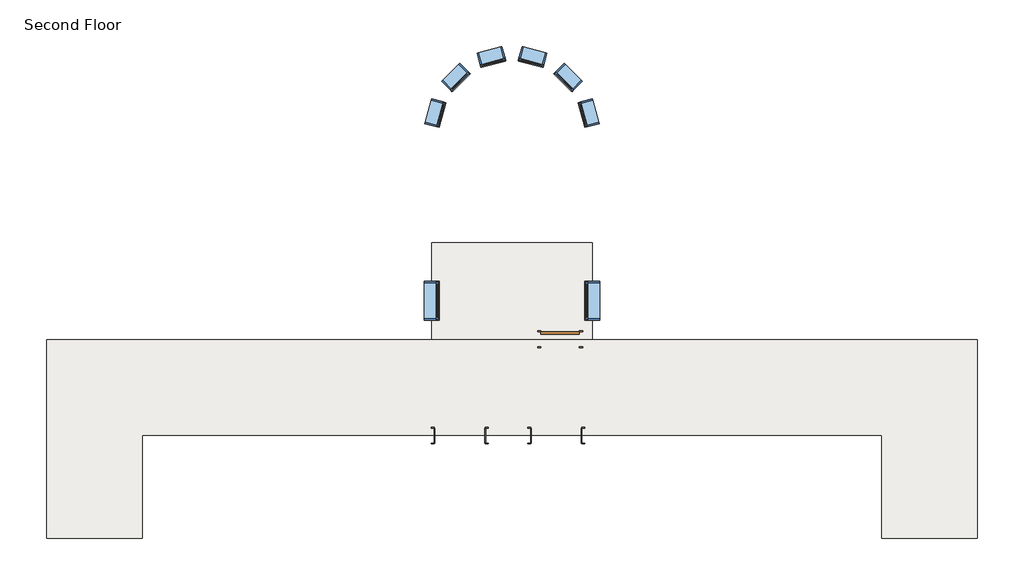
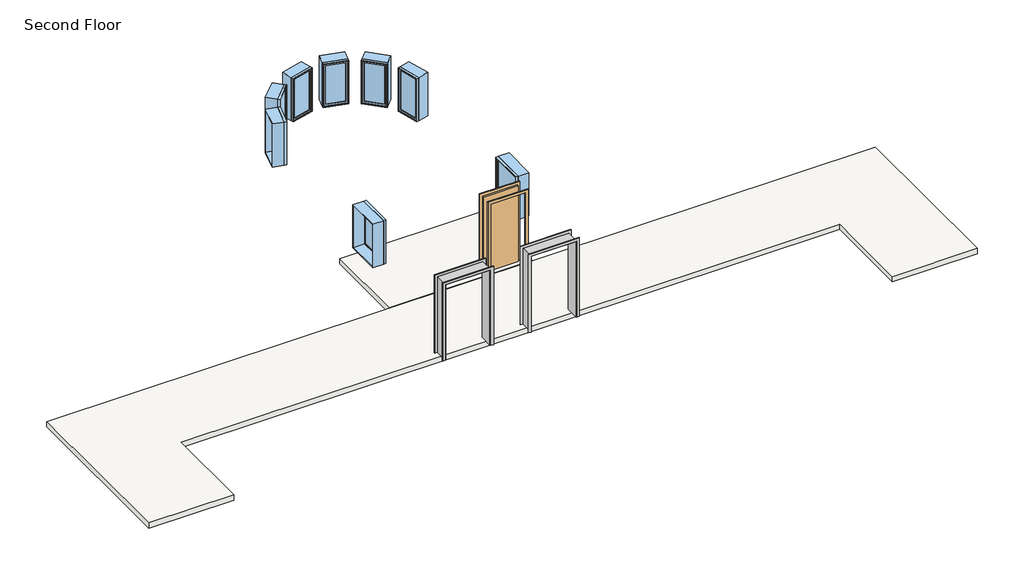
# One storey: 8 windows, 2 proxies, 2 slabs, 1 door.
"""IFC4 building model written with IfcOpenShell, lengths in millimetres."""

import ifcopenshell
import ifcopenshell.guid

model = None  # the IFC model being written
_history = None  # IfcOwnerHistory: only IFC2X3 demands one
_inside = {}  # id of a spatial element -> (the spatial element, [elements in it])
_under = {}  # id of a project, library or spatial element -> (it, [spatial elements below it])
_declared = {}  # id of a project -> (the project, [libraries it declares])
_typed = {}  # id of a type object -> (the type object, [elements of that type])
_made_of = {}  # id of a material, layer set ... -> (it, [elements and type objects made of it])


def new_model(schema):
    """Start an empty IFC model of exactly this schema.

    Asked for "IFC4X3", IfcOpenShell would pick the latest addendum, in which some entities
    have other attributes; the version numbers below select the first issue.
    IFC2X3 requires an IfcOwnerHistory on every rooted entity: one is made here for all.
    """
    global model, _history
    if schema == "IFC4X3":
        model = ifcopenshell.file(schema_version=(4, 3, 0, 0))
    else:
        model = ifcopenshell.file(schema=schema)
    _inside.clear()
    _under.clear()
    _declared.clear()
    _typed.clear()
    _made_of.clear()
    _history = None
    if model.schema == "IFC2X3":
        org = make("IfcOrganization", Name="unknown")
        user = make(
            "IfcPersonAndOrganization",
            ThePerson=make("IfcPerson", FamilyName="unknown"),
            TheOrganization=org,
        )
        app = make(
            "IfcApplication",
            ApplicationDeveloper=org,
            Version="unknown",
            ApplicationFullName="unknown",
            ApplicationIdentifier="unknown",
        )
        _history = make(
            "IfcOwnerHistory",
            OwningUser=user,
            OwningApplication=app,
            ChangeAction="ADDED",
            CreationDate=0,
        )
    return model


def make(cls, **values):
    """One entity of the class cls with the attributes given. An attribute that is None is left unset."""
    return model.create_entity(
        cls, **{name: value for name, value in values.items() if value is not None}
    )


def rooted(cls, **values):
    """An entity with a GlobalId (a new one), such as an element, a storey or a relation."""
    return make(cls, GlobalId=ifcopenshell.guid.new(), OwnerHistory=_history, **values)


def si_unit(unit_type, name, prefix=None):
    """IfcSIUnit, for example si_unit("LENGTHUNIT", "METRE", prefix="MILLI")."""
    return make("IfcSIUnit", UnitType=unit_type, Prefix=prefix, Name=name)


def assignment(units):
    """IfcUnitAssignment: the units of a project."""
    return None if units is None else make("IfcUnitAssignment", Units=units)


def point(xyz):
    """IfcCartesianPoint."""
    return None if xyz is None else make("IfcCartesianPoint", Coordinates=xyz)


def direction(xyz):
    """IfcDirection."""
    return None if xyz is None else make("IfcDirection", DirectionRatios=xyz)


def frame(location, z_axis=None, x_axis=None):
    """IfcAxis2Placement3D, a coordinate frame: its origin and axes. An axis left out is left unset."""
    return make(
        "IfcAxis2Placement3D",
        Location=point(location),
        Axis=direction(z_axis),
        RefDirection=direction(x_axis),
    )


def origin():
    """The frame at (0, 0, 0) with its axes left unset."""
    return frame((0.0, 0.0, 0.0))


def origin_with_axes():
    """The frame at (0, 0, 0) with the z axis (0, 0, 1) and the x axis (1, 0, 0) written out."""
    return frame((0.0, 0.0, 0.0), z_axis=(0.0, 0.0, 1.0), x_axis=(1.0, 0.0, 0.0))


def place(relative_to, where):
    """IfcLocalPlacement: puts the frame where relative to a parent placement (None: the world)."""
    return make(
        "IfcLocalPlacement", PlacementRelTo=relative_to, RelativePlacement=where
    )


def context(
    kind, dimensions, precision=None, world=None, true_north=None, identifier=None
):
    """IfcGeometricRepresentationContext, for example the 3D "Model" context."""
    return make(
        "IfcGeometricRepresentationContext",
        ContextIdentifier=identifier,
        ContextType=kind,
        CoordinateSpaceDimension=dimensions,
        Precision=precision,
        WorldCoordinateSystem=world,
        TrueNorth=true_north,
    )


def project(units=None, contexts=None):
    """IfcProject with its units and contexts."""
    return rooted(
        "IfcProject",
        Name="project",
        RepresentationContexts=contexts,
        UnitsInContext=assignment(units),
    )


def spatial(cls, under=None, at=None, **own):
    """A site, building, storey or space (cls), placed at a placement, below another one or the project."""
    s = rooted(cls, ObjectPlacement=at, **own)
    if under is not None:
        _under.setdefault(under.id(), (under, []))[1].append(s)
    return s


def polyline(points):
    """IfcPolyline through the points."""
    return make("IfcPolyline", Points=[point(p) for p in points])


def outline(outer, holes=None, kind="AREA"):
    """IfcArbitraryClosedProfileDef: a profile drawn as a closed curve; with holes, ...WithVoids."""
    if holes is None:
        return make("IfcArbitraryClosedProfileDef", ProfileType=kind, OuterCurve=outer)
    return make(
        "IfcArbitraryProfileDefWithVoids",
        ProfileType=kind,
        OuterCurve=outer,
        InnerCurves=holes,
    )


def extrude(swept, where, along, depth):
    """IfcExtrudedAreaSolid: the profile swept, set in the frame where, extruded along a direction by depth."""
    return make(
        "IfcExtrudedAreaSolid",
        SweptArea=swept,
        Position=where,
        ExtrudedDirection=direction(along),
        Depth=depth,
    )


def faces_of(points, faces, orient=None, outer=None):
    """IfcFace entities. A face is a list of loops; a loop is a list of indices into points, from 0.

    orient and outer hold one flag for each loop. By default every Orientation is true, the
    first loop of a face is its IfcFaceOuterBound and the others are IfcFaceBound.
    """
    made = []
    for i, loops in enumerate(faces):
        bounds = []
        for j, loop in enumerate(loops):
            is_outer = j == 0 if outer is None else outer[i][j]
            bounds.append(
                make(
                    "IfcFaceOuterBound" if is_outer else "IfcFaceBound",
                    Bound=make("IfcPolyLoop", Polygon=[points[k] for k in loop]),
                    Orientation=True if orient is None else orient[i][j],
                )
            )
        made.append(make("IfcFace", Bounds=bounds))
    return made


def faceted_brep(points, faces, orient=None, outer=None, voids=None):
    """IfcFacetedBrep: a solid bounded by flat faces; with voids (closed shells), ...WithVoids."""
    shared = [point(p) for p in points]
    hull = make("IfcClosedShell", CfsFaces=faces_of(shared, faces, orient, outer))
    if voids is None:
        return make("IfcFacetedBrep", Outer=hull)
    return make(
        "IfcFacetedBrepWithVoids",
        Outer=hull,
        Voids=[
            make(cls, CfsFaces=faces_of(shared, fs, o, b)) for cls, fs, o, b in voids
        ],
    )


def shape(context_of_items, identifier, shape_type, items):
    """IfcShapeRepresentation: the items that make up one representation, for example the "Body"."""
    return make(
        "IfcShapeRepresentation",
        ContextOfItems=context_of_items,
        RepresentationIdentifier=identifier,
        RepresentationType=shape_type,
        Items=items,
    )


def source(mapping_origin, context_of_items, identifier, shape_type, items):
    """IfcRepresentationMap: a shape defined once, which mapped items show again and again."""
    return make(
        "IfcRepresentationMap",
        MappingOrigin=mapping_origin,
        MappedRepresentation=shape(context_of_items, identifier, shape_type, items),
    )


def transform(
    local_origin,
    x_axis=None,
    y_axis=None,
    z_axis=None,
    scale=None,
    scale2=None,
    scale3=None,
    uniform=True,
):
    """IfcCartesianTransformationOperator3D, or its non-uniform kind. x_axis, y_axis, z_axis: its Axis1, 2, 3."""
    if uniform:
        return make(
            "IfcCartesianTransformationOperator3D",
            Axis1=direction(x_axis),
            Axis2=direction(y_axis),
            LocalOrigin=point(local_origin),
            Scale=scale,
            Axis3=direction(z_axis),
        )
    return make(
        "IfcCartesianTransformationOperator3DnonUniform",
        Axis1=direction(x_axis),
        Axis2=direction(y_axis),
        LocalOrigin=point(local_origin),
        Scale=scale,
        Axis3=direction(z_axis),
        Scale2=scale2,
        Scale3=scale3,
    )


def mapped(mapping_source, mapping_target):
    """IfcMappedItem: shows the shape of a source again, moved by a transform."""
    return make(
        "IfcMappedItem", MappingSource=mapping_source, MappingTarget=mapping_target
    )


def made_of(thing, what):
    """Note that an element or type object is made of a material, layer set ...; save() writes the relation."""
    if what is not None:
        _made_of.setdefault(what.id(), (what, []))[1].append(thing)
    return thing


def element(
    cls,
    number,
    at=None,
    inside=None,
    cuts=None,
    type_object=None,
    material=None,
    context=None,
    identifier="Body",
    shape_type=None,
    held_by="IfcProductDefinitionShape",
    body=None,
    shapes=None,
    **own,
):
    """One element of the class cls, such as IfcWall. Its Tag is "e" and its number.

    at: its placement. inside: the storey or other place that contains it. cuts: it is an
    opening in that element (IfcRelVoidsElement). A single representation is given by context,
    identifier, shape_type and body (its items); several are given by shapes. held_by: the class
    of the entity that holds the representations. save() writes the other relations.
    """
    e = rooted(cls, Tag="e%d" % number, ObjectPlacement=at, **own)
    if body is not None:
        shapes = [shape(context, identifier, shape_type, body)]
    if shapes is not None:
        e.Representation = make(held_by, Representations=shapes)
    if inside is not None:
        _inside.setdefault(inside.id(), (inside, []))[1].append(e)
    if cuts is not None:
        rooted(
            "IfcRelVoidsElement", RelatingBuildingElement=cuts, RelatedOpeningElement=e
        )
    if type_object is not None:
        _typed.setdefault(type_object.id(), (type_object, []))[1].append(e)
    return made_of(e, material)


def aggregate(whole, parts):
    """IfcRelAggregates: a whole, such as a stair, and the parts it consists of."""
    return rooted("IfcRelAggregates", RelatingObject=whole, RelatedObjects=parts)


def save(model, path):
    """Write the relations noted so far, then the file.

    IfcRelAggregates (storeys below a building ...), IfcRelContainedInSpatialStructure (elements
    in a storey), IfcRelDefinesByType, IfcRelAssociatesMaterial and IfcRelDeclares: one each for
    every whole, place, type object, material and project.
    """
    for whole, parts in _under.values():
        aggregate(whole, parts)
    for where, things in _inside.values():
        rooted(
            "IfcRelContainedInSpatialStructure",
            RelatedElements=things,
            RelatingStructure=where,
        )
    for kind, things in _typed.values():
        rooted("IfcRelDefinesByType", RelatedObjects=things, RelatingType=kind)
    for what, things in _made_of.values():
        rooted("IfcRelAssociatesMaterial", RelatedObjects=things, RelatingMaterial=what)
    for by, libraries in _declared.values():
        rooted("IfcRelDeclares", RelatingContext=by, RelatedDefinitions=libraries)
    model.write(path)


def m_passage_opening_cased_1220_x_2134mm_f04423fa(model_context):
    return source(origin(), model_context, "Body", "SolidModel", [
        extrude(outline(polyline([(0.0, -611.8386567), (2127.65, -611.8386567), (2127.65, 595.4613433), (0.0, 595.4613433), (0.0, 670.4613433), (2202.65, 670.4613433), (2202.65, -686.8386567), (0.0, -686.8386567), (0.0, -611.8386567)])), frame((0.0, -195.0, 0.0), z_axis=(0.0, 1.0, 0.0), x_axis=(0.0, 0.0, 1.0)), (0.0, 0.0, 1.0), 20.0),
        extrude(outline(polyline([(0.0, 670.4613433), (2208.05, 670.4613433), (2208.05, -686.8386567), (0.0, -686.8386567), (0.0, -611.8386567), (2127.65, -611.8386567), (2127.65, 595.4613433), (0.0, 595.4613433), (0.0, 670.4613433)])), frame((0.0, 175.0, 0.0), z_axis=(0.0, 1.0, 0.0), x_axis=(0.0, 0.0, 1.0)), (0.0, 0.0, 1.0), 20.0),
        faceted_brep([(581.8113433, 175.0, 0.0), (600.8613433, 175.0, 0.0), (600.8613433, -175.0, 0.0), (581.8113433, -175.0, 0.0), (581.8113433, 175.0, 2114.0), (600.8613433, 175.0, 2133.05), (600.8613433, -175.0, 2133.05), (581.8113433, -175.0, 2114.0), (-598.1886567, 175.0, 2114.0), (-617.2386567, 175.0, 2133.05), (-617.2386567, -175.0, 2133.05), (-598.1886567, -175.0, 2114.0), (-598.1886567, 175.0, 0.0), (-598.1886567, -175.0, 0.0), (-617.2386567, -175.0, 0.0), (-617.2386567, 175.0, 0.0)], [[[0, 1, 2, 3]], [[1, 0, 4, 5]], [[2, 1, 5, 6]], [[3, 2, 6, 7]], [[0, 3, 7, 4]], [[5, 4, 8, 9]], [[6, 5, 9, 10]], [[7, 6, 10, 11]], [[4, 7, 11, 8]], [[12, 13, 14, 15]], [[9, 8, 12, 15]], [[10, 9, 15, 14]], [[11, 10, 14, 13]], [[8, 11, 13, 12]]]),
    ])


def m_single_flush_0915_x_2134mm_1eac8bb1(model_context):
    return source(origin(), model_context, "Body", "SweptSolid", [
        extrude(outline(polyline([(2210.0, -533.5), (0.0, -533.5), (0.0, -457.5), (2134.0, -457.5), (2134.0, 457.5), (0.0, 457.5), (0.0, 533.5), (2210.0, 533.5), (2210.0, -533.5)])), frame((0.0, 175.0, 0.0), z_axis=(0.0, 1.0, 0.0), x_axis=(0.0, 0.0, 1.0)), (0.0, 0.0, 1.0), 25.0),
        extrude(outline(polyline([(2210.0, 533.5), (2210.0, -533.5), (0.0, -533.5), (0.0, -457.5), (2134.0, -457.5), (2134.0, 457.5), (0.0, 457.5), (0.0, 533.5), (2210.0, 533.5)])), frame((0.0, -200.0, 0.0), z_axis=(0.0, 1.0, 0.0), x_axis=(0.0, 0.0, 1.0)), (0.0, 0.0, 1.0), 25.0),
        extrude(outline(polyline([(457.5, 124.0), (-457.5, 124.0), (-457.5, 175.0), (457.5, 175.0), (457.5, 124.0)])), origin_with_axes(), (0.0, 0.0, 1.0), 2134.0),
    ])


def m_fixed_0610_x_1220mm_2c28ef1d(model_context):
    return source(origin(), model_context, "Body", "SweptSolid", [
        extrude(outline(polyline([(-242.0, 153.0), (242.0, 153.0), (242.0, 141.0), (-242.0, 141.0), (-242.0, 153.0)])), frame((0.0, 0.0, 978.0), z_axis=(0.0, 0.0, 1.0), x_axis=(1.0, 0.0, 0.0)), (0.0, 0.0, 1.0), 1094.0),
        extrude(outline(polyline([(2116.0, -286.0), (934.0, -286.0), (934.0, 286.0), (2116.0, 286.0), (2116.0, -286.0)]), holes=[polyline([(2072.0, -242.0), (2072.0, 242.0), (978.0, 242.0), (978.0, -242.0), (2072.0, -242.0)])]), frame((0.0, 125.0, 0.0), z_axis=(0.0, 1.0, 0.0), x_axis=(0.0, 0.0, 1.0)), (0.0, 0.0, 1.0), 44.0),
        extrude(outline(polyline([(2135.0, -305.0), (915.0, -305.0), (915.0, 305.0), (2135.0, 305.0), (2135.0, -305.0)]), holes=[polyline([(2116.0, -286.0), (2116.0, 286.0), (934.0, 286.0), (934.0, -286.0), (2116.0, -286.0)])]), frame((0.0, 125.0, 0.0), z_axis=(0.0, 1.0, 0.0), x_axis=(0.0, 0.0, 1.0)), (0.0, 0.0, 1.0), 63.0),
        extrude(outline(polyline([(2135.0, -305.0), (915.0, -305.0), (915.0, 305.0), (2135.0, 305.0), (2135.0, -305.0)]), holes=[polyline([(2103.0, -273.0), (2103.0, 273.0), (947.0, 273.0), (947.0, -273.0), (2103.0, -273.0)])]), frame((0.0, -162.0, 0.0), z_axis=(0.0, 1.0, 0.0), x_axis=(0.0, 0.0, 1.0)), (0.0, 0.0, 1.0), 287.0),
    ])


def m_fixed_0610_x_1220mm_1ea27827(model_context):
    return source(origin(), model_context, "Body", "SweptSolid", [
        extrude(outline(polyline([(-242.0, -153.0), (-242.0, -141.0), (242.0, -141.0), (242.0, -153.0), (-242.0, -153.0)])), frame((0.0, 0.0, 978.0), z_axis=(0.0, 0.0, 1.0), x_axis=(1.0, 0.0, 0.0)), (0.0, 0.0, 1.0), 1094.0),
        extrude(outline(polyline([(2116.0, -286.0), (934.0, -286.0), (934.0, 286.0), (2116.0, 286.0), (2116.0, -286.0)]), holes=[polyline([(2072.0, -242.0), (2072.0, 242.0), (978.0, 242.0), (978.0, -242.0), (2072.0, -242.0)])]), frame((0.0, -169.0, 0.0), z_axis=(0.0, 1.0, 0.0), x_axis=(0.0, 0.0, 1.0)), (0.0, 0.0, 1.0), 44.0),
        extrude(outline(polyline([(2135.0, -305.0), (915.0, -305.0), (915.0, 305.0), (2135.0, 305.0), (2135.0, -305.0)]), holes=[polyline([(2116.0, -286.0), (2116.0, 286.0), (934.0, 286.0), (934.0, -286.0), (2116.0, -286.0)])]), frame((0.0, -188.0, 0.0), z_axis=(0.0, 1.0, 0.0), x_axis=(0.0, 0.0, 1.0)), (0.0, 0.0, 1.0), 63.0),
        extrude(outline(polyline([(2135.0, -305.0), (915.0, -305.0), (915.0, 305.0), (2135.0, 305.0), (2135.0, -305.0)]), holes=[polyline([(2103.0, -273.0), (2103.0, 273.0), (947.0, 273.0), (947.0, -273.0), (2103.0, -273.0)])]), frame((0.0, -125.0, 0.0), z_axis=(0.0, 1.0, 0.0), x_axis=(0.0, 0.0, 1.0)), (0.0, 0.0, 1.0), 287.0),
    ])


def m_fixed_0915_x_1220mm_bde29121(model_context):
    return source(origin(), model_context, "Body", "SweptSolid", [
        extrude(outline(polyline([(-394.5, 153.0), (394.5, 153.0), (394.5, 141.0), (-394.5, 141.0), (-394.5, 153.0)])), frame((0.0, 0.0, 978.0), z_axis=(0.0, 0.0, 1.0), x_axis=(1.0, 0.0, 0.0)), (0.0, 0.0, 1.0), 1094.0),
        extrude(outline(polyline([(2116.0, -438.5), (934.0, -438.5), (934.0, 438.5), (2116.0, 438.5), (2116.0, -438.5)]), holes=[polyline([(2072.0, -394.5), (2072.0, 394.5), (978.0, 394.5), (978.0, -394.5), (2072.0, -394.5)])]), frame((0.0, 125.0, 0.0), z_axis=(0.0, 1.0, 0.0), x_axis=(0.0, 0.0, 1.0)), (0.0, 0.0, 1.0), 44.0),
        extrude(outline(polyline([(2135.0, -457.5), (915.0, -457.5), (915.0, 457.5), (2135.0, 457.5), (2135.0, -457.5)]), holes=[polyline([(2116.0, -438.5), (2116.0, 438.5), (934.0, 438.5), (934.0, -438.5), (2116.0, -438.5)])]), frame((0.0, 125.0, 0.0), z_axis=(0.0, 1.0, 0.0), x_axis=(0.0, 0.0, 1.0)), (0.0, 0.0, 1.0), 63.0),
        extrude(outline(polyline([(2135.0, -457.5), (915.0, -457.5), (915.0, 457.5), (2135.0, 457.5), (2135.0, -457.5)]), holes=[polyline([(2103.0, -425.5), (2103.0, 425.5), (947.0, 425.5), (947.0, -425.5), (2103.0, -425.5)])]), frame((0.0, -162.0, 0.0), z_axis=(0.0, 1.0, 0.0), x_axis=(0.0, 0.0, 1.0)), (0.0, 0.0, 1.0), 287.0),
    ])


model = new_model("IFC4")

# Units and contexts
model_context = context("Model", 3, world=origin())
ifc_project = project(units=[si_unit("LENGTHUNIT", "METRE", prefix="MILLI")], contexts=[model_context])

# Site, building, storey
site = spatial("IfcSite", under=ifc_project)
building = spatial("IfcBuilding", under=site)
storey = spatial("IfcBuildingStorey", under=building, Name="Second Floor", Elevation=3048.0)

# Proxies
placement = place(None, origin())
m_passage_opening_cased_1220_x_2134mm_shape = m_passage_opening_cased_1220_x_2134mm_f04423fa(model_context)
element("IfcBuildingElementProxy", 1, Name="M_Passage Opening-Cased : 1220 x 2134mm", ObjectType="M_Passage Opening-Cased : 1220 x 2134mm", at=placement, inside=storey, context=model_context, shape_type="MappedRepresentation", body=[
    mapped(m_passage_opening_cased_1220_x_2134mm_shape, transform((3529.9038, -3050.7443399, 3048.0), x_axis=(-1.0, 0.0, 0.0), y_axis=(0.0, -1.0, 0.0), z_axis=(0.0, 0.0, 1.0))),
])
element("IfcBuildingElementProxy", 2, Name="M_Passage Opening-Cased : 1220 x 2134mm", ObjectType="M_Passage Opening-Cased : 1220 x 2134mm", at=placement, inside=storey, context=model_context, shape_type="MappedRepresentation", body=[
    mapped(m_passage_opening_cased_1220_x_2134mm_shape, transform((1260.2811134, -3050.7443399, 3048.0), x_axis=(1.0, 0.0, 0.0), y_axis=(0.0, 1.0, 0.0), z_axis=(0.0, 0.0, 1.0))),
])

# Door
m_single_flush_0915_x_2134mm_shape = m_single_flush_0915_x_2134mm_1eac8bb1(model_context)
element("IfcDoor", 3, ObjectType="M_Single-Flush : 0915 x 2134mm", at=placement, inside=storey, context=model_context, shape_type="MappedRepresentation", body=[
    mapped(m_single_flush_0915_x_2134mm_shape, transform((3632.0924567, -764.7443399, 3048.0), x_axis=(1.0, 0.0, 0.0), y_axis=(0.0, 1.0, 0.0), z_axis=(0.0, 0.0, 1.0))),
])

# Slabs
element("IfcSlab", 4, ObjectType="Generic 150mm", at=placement, inside=storey, context=model_context, shape_type="SweptSolid", body=[
    extrude(outline(polyline([(13528.0924567, -774.7443399), (13528.0924567, -5479.1443399), (11262.0924567, -5479.1443399), (11262.0924567, -3040.7443399), (-6283.9075433, -3040.7443399), (-6283.9075433, -5479.1443399), (-8549.9075433, -5479.1443399), (-8549.9075433, -774.7443399), (13528.0924567, -774.7443399)])), frame((0.0, 0.0, 2898.0), z_axis=(0.0, 0.0, 1.0), x_axis=(1.0, 0.0, 0.0)), (0.0, 0.0, 1.0), 150.0),
])
element("IfcSlab", 5, ObjectType="Generic 150mm", at=placement, inside=storey, context=model_context, shape_type="SweptSolid", body=[
    extrude(outline(polyline([(4394.0924567, -764.7443399), (584.0924567, -764.7443399), (584.0924567, 1521.2556601), (4394.0924567, 1521.2556601), (4394.0924567, -764.7443399)])), frame((0.0, 0.0, 2898.0), z_axis=(0.0, 0.0, 1.0), x_axis=(1.0, 0.0, 0.0)), (0.0, 0.0, 1.0), 150.0),
])

# Windows
m_fixed_0610_x_1220mm_shape = m_fixed_0610_x_1220mm_2c28ef1d(model_context)
element("IfcWindow", 6, ObjectType="M_Fixed : 0610 x 1220mm", at=placement, inside=storey, context=model_context, shape_type="MappedRepresentation", body=[
    mapped(m_fixed_0610_x_1220mm_shape, transform((658.1639152, 4602.8514842, 3048.0), x_axis=(-0.2588190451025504, -0.9659258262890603, 0.0), y_axis=(0.9659258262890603, -0.2588190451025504, 0.0), z_axis=(0.0, 0.0, 1.0))),
])
element("IfcWindow", 7, ObjectType="M_Fixed : 0610 x 1220mm", at=placement, inside=storey, context=model_context, shape_type="MappedRepresentation", body=[
    mapped(m_fixed_0610_x_1220mm_shape, transform((1998.4966326, 5943.1842016, 3048.0), x_axis=(-0.9659258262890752, -0.2588190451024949, 0.0), y_axis=(0.2588190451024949, -0.9659258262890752, 0.0), z_axis=(0.0, 0.0, 1.0))),
])
element("IfcWindow", 8, ObjectType="M_Fixed : 0610 x 1220mm", at=placement, inside=storey, context=model_context, shape_type="MappedRepresentation", body=[
    mapped(m_fixed_0610_x_1220mm_shape, transform((1148.7597393, 5452.5883775, 3048.0), x_axis=(-0.707106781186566, -0.7071067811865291, 0.0), y_axis=(0.7071067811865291, -0.707106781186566, 0.0), z_axis=(0.0, 0.0, 1.0))),
])
m_fixed_0610_x_1220mm_2_shape = m_fixed_0610_x_1220mm_1ea27827(model_context)
element("IfcWindow", 9, ObjectType="M_Fixed : 0610 x 1220mm", at=placement, inside=storey, context=model_context, shape_type="MappedRepresentation", body=[
    mapped(m_fixed_0610_x_1220mm_2_shape, transform((4320.0209983, 4602.8514842, 3048.0), x_axis=(0.2588190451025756, -0.9659258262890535, 0.0), y_axis=(0.9659258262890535, 0.2588190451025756, 0.0), z_axis=(0.0, 0.0, 1.0))),
])
element("IfcWindow", 10, ObjectType="M_Fixed : 0610 x 1220mm", at=placement, inside=storey, context=model_context, shape_type="MappedRepresentation", body=[
    mapped(m_fixed_0610_x_1220mm_2_shape, transform((2979.6882808, 5943.1842016, 3048.0), x_axis=(0.9659258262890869, -0.2588190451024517, 0.0), y_axis=(0.2588190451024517, 0.9659258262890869, 0.0), z_axis=(0.0, 0.0, 1.0))),
])
element("IfcWindow", 11, ObjectType="M_Fixed : 0610 x 1220mm", at=placement, inside=storey, context=model_context, shape_type="MappedRepresentation", body=[
    mapped(m_fixed_0610_x_1220mm_2_shape, transform((3829.4251742, 5452.5883775, 3048.0), x_axis=(0.7071067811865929, -0.7071067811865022, 0.0), y_axis=(0.7071067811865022, 0.7071067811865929, 0.0), z_axis=(0.0, 0.0, 1.0))),
])
m_fixed_0915_x_1220mm_shape = m_fixed_0915_x_1220mm_bde29121(model_context)
element("IfcWindow", 12, ObjectType="M_Fixed : 0915 x 1220mm", at=placement, inside=storey, context=model_context, shape_type="MappedRepresentation", body=[
    mapped(m_fixed_0915_x_1220mm_shape, transform((571.0924567, 150.2556601, 3048.0), x_axis=(0.0, -1.0, 0.0), y_axis=(1.0, 0.0, 0.0), z_axis=(0.0, 0.0, 1.0))),
])
element("IfcWindow", 13, ObjectType="M_Fixed : 0915 x 1220mm", at=placement, inside=storey, context=model_context, shape_type="MappedRepresentation", body=[
    mapped(m_fixed_0915_x_1220mm_shape, transform((4407.0924567, 150.2556601, 3048.0), x_axis=(0.0, 1.0, 0.0), y_axis=(-1.0, 0.0, 0.0), z_axis=(0.0, 0.0, 1.0))),
])

save(model, "model.ifc")
